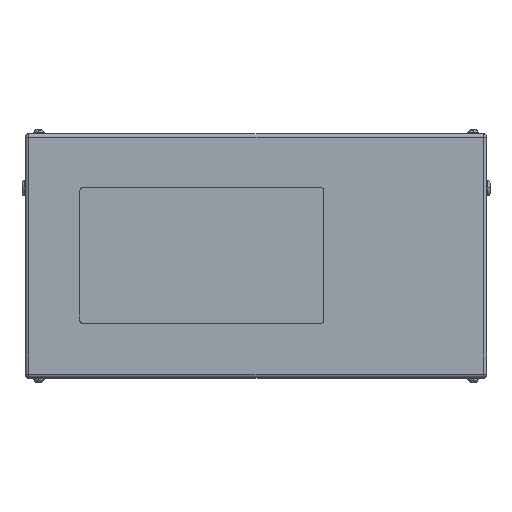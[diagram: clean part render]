
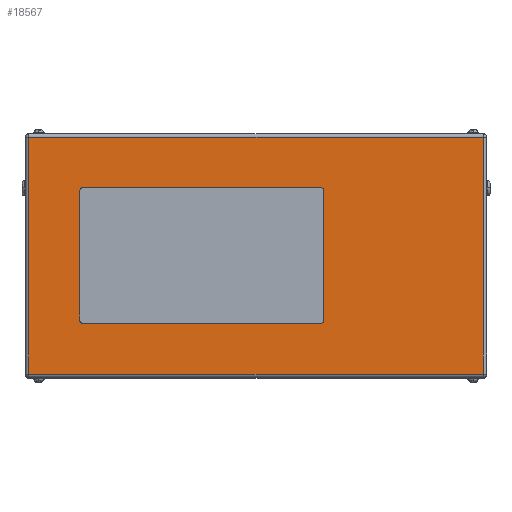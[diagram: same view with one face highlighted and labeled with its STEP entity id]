
A CAD part, top view. The second image highlights one B-rep face of the part: STEP entity #18567.
In plain terms, the highlighted planar face has unit normal (0, 0, 1).
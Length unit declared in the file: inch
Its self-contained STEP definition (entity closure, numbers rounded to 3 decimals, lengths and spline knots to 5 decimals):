
#395 = EDGE_CURVE ( 'NONE', #18804, #22257, #20815, .T. ) ;
#508 = DIRECTION ( 'NONE',  ( 1., 0., 0. ) ) ;
#675 = CARTESIAN_POINT ( 'NONE',  ( -13., 4.75, 17. ) ) ;
#677 = VERTEX_POINT ( 'NONE', #20245 ) ;
#893 = AXIS2_PLACEMENT_3D ( 'NONE', #4312, #13107, #6014 ) ;
#916 = EDGE_CURVE ( 'NONE', #7787, #7903, #13944, .T. ) ;
#1068 = EDGE_CURVE ( 'NONE', #7903, #2069, #5260, .T. ) ;
#1095 = LINE ( 'NONE', #11595, #1386 ) ;
#1386 = VECTOR ( 'NONE', #11237, 39.37008 ) ;
#1618 = DIRECTION ( 'NONE',  ( 0., 1., 0. ) ) ;
#1792 = DIRECTION ( 'NONE',  ( -1., 0., 0. ) ) ;
#1994 = ORIENTED_EDGE ( 'NONE', *, *, #14078, .F. ) ;
#2069 = VERTEX_POINT ( 'NONE', #16753 ) ;
#2937 = VERTEX_POINT ( 'NONE', #13168 ) ;
#3230 = CARTESIAN_POINT ( 'NONE',  ( 5., 4.75, 17. ) ) ;
#3404 = CARTESIAN_POINT ( 'NONE',  ( 17., 8.734, 17. ) ) ;
#3599 = CARTESIAN_POINT ( 'NONE',  ( 16.734, 9., 17. ) ) ;
#4037 = ORIENTED_EDGE ( 'NONE', *, *, #1068, .F. ) ;
#4146 = DIRECTION ( 'NONE',  ( 1., 0., 0. ) ) ;
#4312 = CARTESIAN_POINT ( 'NONE',  ( 4.75, 4.75, 17. ) ) ;
#4507 = CARTESIAN_POINT ( 'NONE',  ( -12.75, 4.75, 17. ) ) ;
#4751 = DIRECTION ( 'NONE',  ( 0., -1., 0. ) ) ;
#4951 = EDGE_CURVE ( 'NONE', #677, #7717, #10486, .T. ) ;
#5260 = LINE ( 'NONE', #3230, #10649 ) ;
#5361 = VERTEX_POINT ( 'NONE', #9658 ) ;
#5369 = AXIS2_PLACEMENT_3D ( 'NONE', #4507, #7932, #508 ) ;
#5736 = LINE ( 'NONE', #3599, #10281 ) ;
#5868 = AXIS2_PLACEMENT_3D ( 'NONE', #9611, #16676, #22040 ) ;
#6014 = DIRECTION ( 'NONE',  ( -1., 0., 0. ) ) ;
#6199 = CARTESIAN_POINT ( 'NONE',  ( -12.75, -4.75, 17. ) ) ;
#6241 = CARTESIAN_POINT ( 'NONE',  ( 16.734, 8.734, 17. ) ) ;
#6427 = CARTESIAN_POINT ( 'NONE',  ( 16.734, -8.734, 17. ) ) ;
#6436 = ORIENTED_EDGE ( 'NONE', *, *, #20304, .F. ) ;
#6649 = VERTEX_POINT ( 'NONE', #6241 ) ;
#7236 = DIRECTION ( 'NONE',  ( 0., 1., 0. ) ) ;
#7301 = EDGE_LOOP ( 'NONE', ( #6436, #13729, #1994, #10559, #7322, #14547, #4037, #22300 ) ) ;
#7322 = ORIENTED_EDGE ( 'NONE', *, *, #9730, .F. ) ;
#7717 = VERTEX_POINT ( 'NONE', #18592 ) ;
#7787 = VERTEX_POINT ( 'NONE', #10735 ) ;
#7903 = VERTEX_POINT ( 'NONE', #10838 ) ;
#7932 = DIRECTION ( 'NONE',  ( 0., 0., 1. ) ) ;
#8181 = CIRCLE ( 'NONE', #893, 0.25 ) ;
#8466 = VECTOR ( 'NONE', #10896, 39.37008 ) ;
#8922 = EDGE_CURVE ( 'NONE', #5361, #17318, #9334, .T. ) ;
#9334 = LINE ( 'NONE', #11033, #15069 ) ;
#9482 = DIRECTION ( 'NONE',  ( 0., 0., 1. ) ) ;
#9611 = CARTESIAN_POINT ( 'NONE',  ( 17., 9., 17. ) ) ;
#9658 = CARTESIAN_POINT ( 'NONE',  ( -16.734, -8.734, 17. ) ) ;
#9730 = EDGE_CURVE ( 'NONE', #2937, #677, #1095, .T. ) ;
#9846 = FACE_OUTER_BOUND ( 'NONE', #21411, .T. ) ;
#9878 = ORIENTED_EDGE ( 'NONE', *, *, #13263, .T. ) ;
#9919 = LINE ( 'NONE', #15472, #12751 ) ;
#10232 = LINE ( 'NONE', #22217, #8466 ) ;
#10281 = VECTOR ( 'NONE', #7236, 39.37008 ) ;
#10486 = CIRCLE ( 'NONE', #5369, 0.25 ) ;
#10559 = ORIENTED_EDGE ( 'NONE', *, *, #4951, .F. ) ;
#10649 = VECTOR ( 'NONE', #1618, 39.37008 ) ;
#10735 = CARTESIAN_POINT ( 'NONE',  ( 4.75, -5., 17. ) ) ;
#10838 = CARTESIAN_POINT ( 'NONE',  ( 5., -4.75, 17. ) ) ;
#10896 = DIRECTION ( 'NONE',  ( 1., 0., 0. ) ) ;
#10945 = ORIENTED_EDGE ( 'NONE', *, *, #16944, .T. ) ;
#11033 = CARTESIAN_POINT ( 'NONE',  ( 16.734, -8.734, 17. ) ) ;
#11237 = DIRECTION ( 'NONE',  ( -1., 0., 0. ) ) ;
#11595 = CARTESIAN_POINT ( 'NONE',  ( -12.75, 5., 17. ) ) ;
#12256 = ORIENTED_EDGE ( 'NONE', *, *, #8922, .T. ) ;
#12751 = VECTOR ( 'NONE', #4751, 39.37008 ) ;
#13107 = DIRECTION ( 'NONE',  ( 0., 0., 1. ) ) ;
#13168 = CARTESIAN_POINT ( 'NONE',  ( 4.75, 5., 17. ) ) ;
#13263 = EDGE_CURVE ( 'NONE', #17416, #5361, #9919, .T. ) ;
#13576 = CARTESIAN_POINT ( 'NONE',  ( -12.75, -5., 17. ) ) ;
#13729 = ORIENTED_EDGE ( 'NONE', *, *, #395, .F. ) ;
#13894 = AXIS2_PLACEMENT_3D ( 'NONE', #6199, #14425, #4146 ) ;
#13944 = CIRCLE ( 'NONE', #18301, 0.25 ) ;
#14078 = EDGE_CURVE ( 'NONE', #7717, #18804, #21674, .T. ) ;
#14425 = DIRECTION ( 'NONE',  ( 0., 0., 1. ) ) ;
#14547 = ORIENTED_EDGE ( 'NONE', *, *, #21299, .F. ) ;
#15069 = VECTOR ( 'NONE', #16267, 39.37008 ) ;
#15084 = PLANE ( 'NONE',  #5868 ) ;
#15472 = CARTESIAN_POINT ( 'NONE',  ( -16.734, 9., 17. ) ) ;
#15553 = ORIENTED_EDGE ( 'NONE', *, *, #19928, .T. ) ;
#15753 = CARTESIAN_POINT ( 'NONE',  ( -16.734, 8.734, 17. ) ) ;
#16267 = DIRECTION ( 'NONE',  ( 1., 0., 0. ) ) ;
#16420 = DIRECTION ( 'NONE',  ( 1., 0., 0. ) ) ;
#16676 = DIRECTION ( 'NONE',  ( 0., 0., -1. ) ) ;
#16742 = VECTOR ( 'NONE', #1792, 39.37008 ) ;
#16753 = CARTESIAN_POINT ( 'NONE',  ( 5., 4.75, 17. ) ) ;
#16944 = EDGE_CURVE ( 'NONE', #6649, #17416, #21062, .T. ) ;
#17318 = VERTEX_POINT ( 'NONE', #6427 ) ;
#17416 = VERTEX_POINT ( 'NONE', #15753 ) ;
#18112 = DIRECTION ( 'NONE',  ( 0., -1., 0. ) ) ;
#18301 = AXIS2_PLACEMENT_3D ( 'NONE', #20091, #9482, #16420 ) ;
#18386 = FACE_BOUND ( 'NONE', #7301, .T. ) ;
#18567 = ADVANCED_FACE ( 'NONE', ( #18386, #9846 ), #15084, .F. ) ;
#18592 = CARTESIAN_POINT ( 'NONE',  ( -13., 4.75, 17. ) ) ;
#18804 = VERTEX_POINT ( 'NONE', #21896 ) ;
#19928 = EDGE_CURVE ( 'NONE', #17318, #6649, #5736, .T. ) ;
#20091 = CARTESIAN_POINT ( 'NONE',  ( 4.75, -4.75, 17. ) ) ;
#20245 = CARTESIAN_POINT ( 'NONE',  ( -12.75, 5., 17. ) ) ;
#20304 = EDGE_CURVE ( 'NONE', #22257, #7787, #10232, .T. ) ;
#20815 = CIRCLE ( 'NONE', #13894, 0.25 ) ;
#21062 = LINE ( 'NONE', #3404, #16742 ) ;
#21299 = EDGE_CURVE ( 'NONE', #2069, #2937, #8181, .T. ) ;
#21411 = EDGE_LOOP ( 'NONE', ( #9878, #12256, #15553, #10945 ) ) ;
#21674 = LINE ( 'NONE', #675, #21917 ) ;
#21896 = CARTESIAN_POINT ( 'NONE',  ( -13., -4.75, 17. ) ) ;
#21917 = VECTOR ( 'NONE', #18112, 39.37008 ) ;
#22040 = DIRECTION ( 'NONE',  ( -1., 0., 0. ) ) ;
#22217 = CARTESIAN_POINT ( 'NONE',  ( -12.75, -5., 17. ) ) ;
#22257 = VERTEX_POINT ( 'NONE', #13576 ) ;
#22300 = ORIENTED_EDGE ( 'NONE', *, *, #916, .F. ) ;
